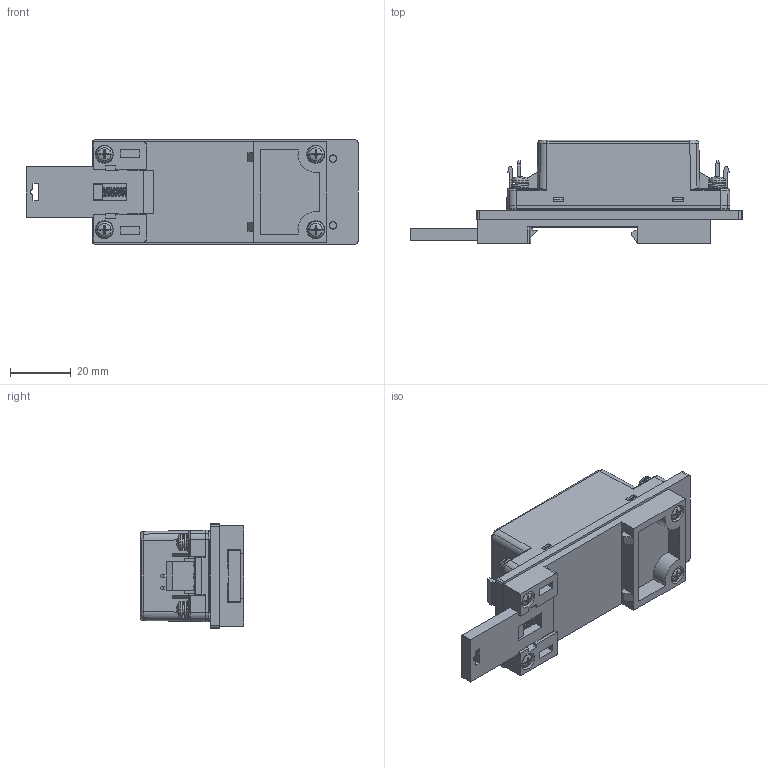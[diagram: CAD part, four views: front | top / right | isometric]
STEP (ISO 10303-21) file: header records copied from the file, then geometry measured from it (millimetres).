
FILE_DESCRIPTION (( 'STEP AP214' ), '1' );
FILE_NAME ('AMF-15S051CD-AC-DIN-06.STEP', '2024-03-07T09:42:12', ( '' ), ( '' ), 'SwSTEP 2.0', 'SolidWorks 2021', '' );
FILE_SCHEMA (( 'AUTOMOTIVE_DESIGN' ));
Length unit declared in the file: millimetre
Products named in the file (9): AMF-15 Chassis CASE_default; AMF-15S051CD-AC-DIN-06; AMF-15 Chassis  on CASE M3x0.5-12_default; AMF-15 Chassis JSTｺﾝ､l･x(ｿ鬣Xｺﾝ5｡B6･XPIN)_default; AMF-15 Chassis BASE_default; AMF-15 Chassis Mounting with JST connection_default; AMF-15 Chassis JST端子台_default; AMF-15 Chassis DIN Rail Mounting(20240305)_default; AMF-15 Chassis PCB_default
Assembly tree (11 placements, depth 3):
  AMF-15S051CD-AC-DIN-06
    AMF-15 Chassis DIN Rail Mounting(20240305)_default
    AMF-15 Chassis  on CASE M3x0.5-12_default  x4
    AMF-15 Chassis Mounting with JST connection_default
      AMF-15 Chassis CASE_default
      AMF-15 Chassis PCB_default
      AMF-15 Chassis BASE_default
      AMF-15 Chassis JSTｺﾝ､l･x(ｿ鬣Xｺﾝ5｡B6･XPIN)_default
      AMF-15 Chassis JST端子台_default
Bounding box: 109.45 x 34.1 x 34.5 mm (x, y, z)
Volume: 61745.8 mm3; surface area: 37782.9 mm2
Topology: 34 solids, 53 shells, 1333 faces, 3452 edges, 2247 vertices
Faces by surface type: plane 695, cylinder 299, cone 140, bspline 105, torus 76, sphere 18
Full cylindrical faces by diameter (mm): 3.5 x8, 5.5 x8
Entity records: 56964 total; most frequent: CARTESIAN_POINT 15817, ORIENTED_EDGE 6070, DIRECTION 5464, EDGE_CURVE 3035, VERTEX_POINT 1989, LINE 1944, VECTOR 1944, AXIS2_PLACEMENT_3D 1760
